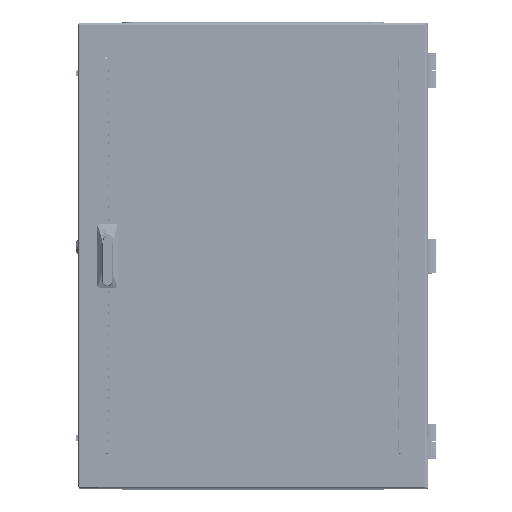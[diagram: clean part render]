
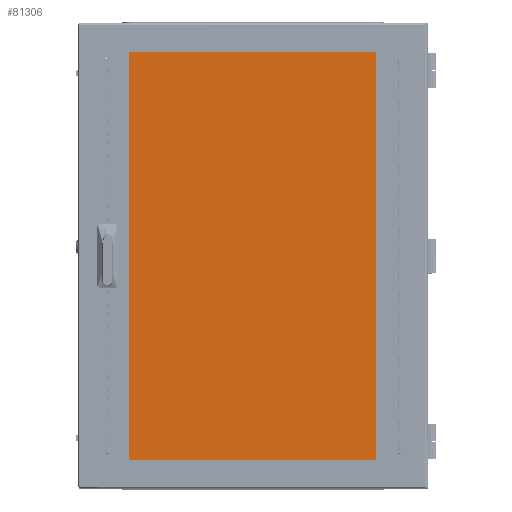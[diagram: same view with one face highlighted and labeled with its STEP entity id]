
A CAD part, top view. The second image highlights one B-rep face of the part: STEP entity #81306.
In plain terms, the highlighted planar face has unit normal (0, 0, 1) as drawn and (0, 0, -1) by its records, which use the part's own axes.
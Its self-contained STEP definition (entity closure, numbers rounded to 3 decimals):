
#5073 = DIRECTION ( 'NONE',  ( -1., 0., 0. ) ) ;
#19600 = ORIENTED_EDGE ( 'NONE', *, *, #111360, .F. ) ;
#20490 = VERTEX_POINT ( 'NONE', #184253 ) ;
#25348 = LINE ( 'NONE', #141120, #145367 ) ;
#30572 = ORIENTED_EDGE ( 'NONE', *, *, #166698, .F. ) ;
#31671 = CARTESIAN_POINT ( 'NONE',  ( -217.5, 355., 0. ) ) ;
#43200 = EDGE_LOOP ( 'NONE', ( #30572, #123440, #19600, #78839 ) ) ;
#47765 = VERTEX_POINT ( 'NONE', #60736 ) ;
#49708 = CARTESIAN_POINT ( 'NONE',  ( 0., 0., 0. ) ) ;
#60736 = CARTESIAN_POINT ( 'NONE',  ( 217.5, 355., 0. ) ) ;
#67964 = VERTEX_POINT ( 'NONE', #74878 ) ;
#72302 = CARTESIAN_POINT ( 'NONE',  ( -217.5, -355., 0. ) ) ;
#74878 = CARTESIAN_POINT ( 'NONE',  ( -217.5, 355., 0. ) ) ;
#78839 = ORIENTED_EDGE ( 'NONE', *, *, #130406, .F. ) ;
#78870 = VERTEX_POINT ( 'NONE', #103542 ) ;
#80044 = VECTOR ( 'NONE', #146012, 1000. ) ;
#81306 = ADVANCED_FACE ( 'NONE', ( #177326 ), #185172, .T. ) ;
#85105 = VECTOR ( 'NONE', #182227, 1000. ) ;
#95123 = DIRECTION ( 'NONE',  ( 0., 0., -1. ) ) ;
#103542 = CARTESIAN_POINT ( 'NONE',  ( -217.5, -355., 0. ) ) ;
#111360 = EDGE_CURVE ( 'NONE', #67964, #78870, #160036, .T. ) ;
#123440 = ORIENTED_EDGE ( 'NONE', *, *, #187638, .F. ) ;
#125144 = LINE ( 'NONE', #31671, #85105 ) ;
#126785 = LINE ( 'NONE', #145974, #166606 ) ;
#130406 = EDGE_CURVE ( 'NONE', #47765, #67964, #125144, .T. ) ;
#141120 = CARTESIAN_POINT ( 'NONE',  ( -217.5, -355., 0. ) ) ;
#145367 = VECTOR ( 'NONE', #156192, 1000. ) ;
#145974 = CARTESIAN_POINT ( 'NONE',  ( 217.5, -355., 0. ) ) ;
#146012 = DIRECTION ( 'NONE',  ( 0., -1., 0. ) ) ;
#156192 = DIRECTION ( 'NONE',  ( 1., 0., 0. ) ) ;
#160036 = LINE ( 'NONE', #72302, #80044 ) ;
#166606 = VECTOR ( 'NONE', #176146, 1000. ) ;
#166698 = EDGE_CURVE ( 'NONE', #20490, #47765, #126785, .T. ) ;
#172957 = AXIS2_PLACEMENT_3D ( 'NONE', #49708, #95123, #5073 ) ;
#176146 = DIRECTION ( 'NONE',  ( 0., 1., 0. ) ) ;
#177326 = FACE_OUTER_BOUND ( 'NONE', #43200, .T. ) ;
#182227 = DIRECTION ( 'NONE',  ( -1., 0., 0. ) ) ;
#184253 = CARTESIAN_POINT ( 'NONE',  ( 217.5, -355., 0. ) ) ;
#185172 = PLANE ( 'NONE',  #172957 ) ;
#187638 = EDGE_CURVE ( 'NONE', #78870, #20490, #25348, .T. ) ;
